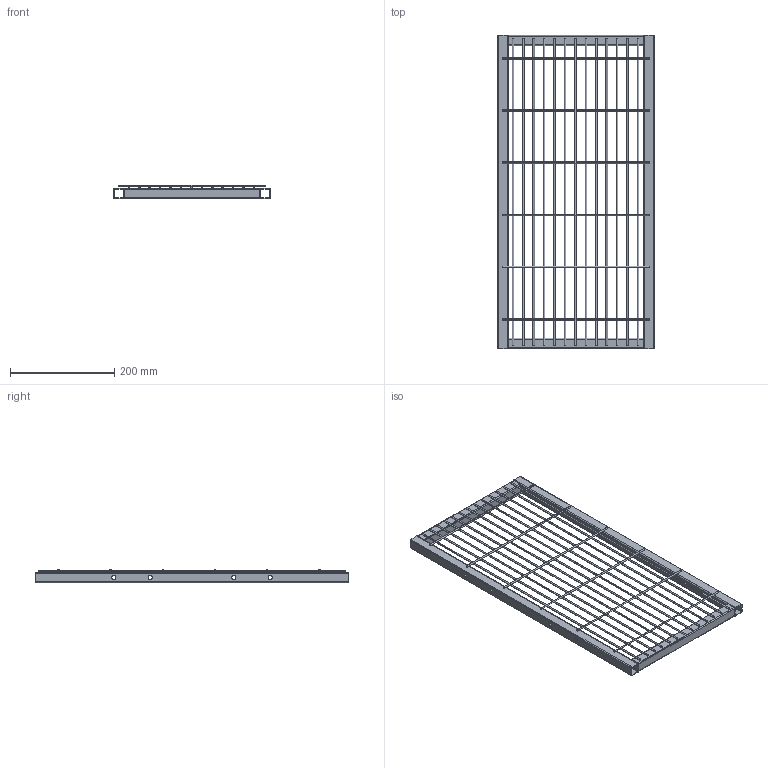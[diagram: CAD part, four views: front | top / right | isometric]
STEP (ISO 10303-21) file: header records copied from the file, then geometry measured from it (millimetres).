
FILE_DESCRIPTION (( 'STEP AP203' ), '1' );
FILE_NAME ('Framed Panel 300 x 600.STEP', '2023-09-15T16:53:19', ( '' ), ( '' ), 'SwSTEP 2.0', 'SolidWorks 2023', '' );
FILE_SCHEMA (( 'CONFIG_CONTROL_DESIGN' ));
Length unit declared in the file: millimetre
Products named in the file (1): Framed Panel 300 x 600
Bounding box: 300 x 600 x 26 mm (x, y, z)
Volume: 250268.2 mm3; surface area: 335424.9 mm2
Topology: 23 solids, 23 shells, 180 faces, 402 edges, 268 vertices
Faces by surface type: cylinder 102, plane 78
Entity records: 5203 total; most frequent: DIRECTION 968, CARTESIAN_POINT 851, ORIENTED_EDGE 804, EDGE_CURVE 402, AXIS2_PLACEMENT_3D 385, VERTEX_POINT 268, EDGE_LOOP 220, CIRCLE 204
